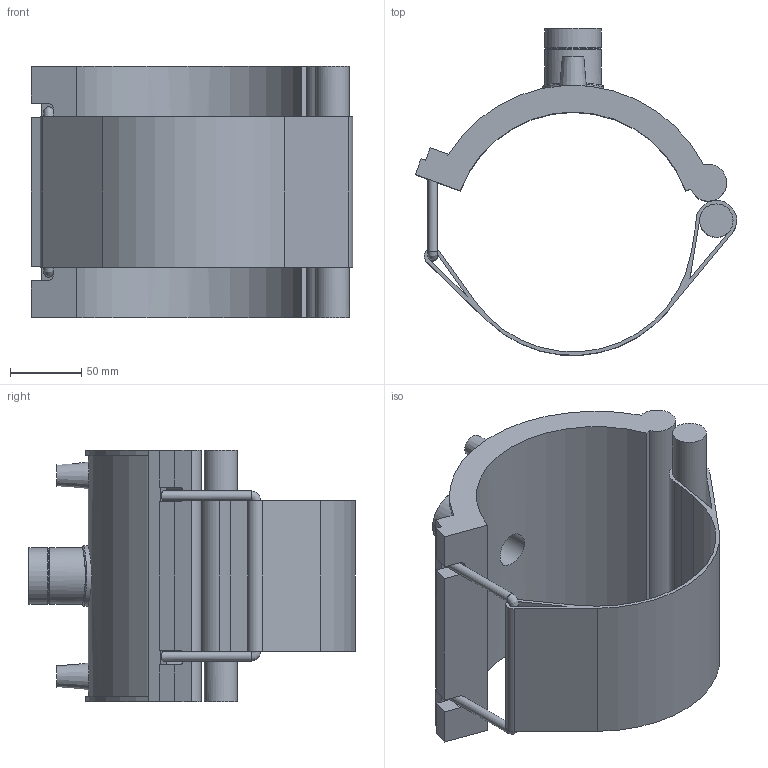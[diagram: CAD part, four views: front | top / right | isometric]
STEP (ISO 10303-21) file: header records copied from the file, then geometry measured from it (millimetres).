
FILE_DESCRIPTION(/* description */ ('PLASSON TRANSITION SADDLE 6''''IPS x 1"NPT'),/* implementation_level */ '2;1');
FILE_NAME(/* name */ 'C:\Dropbox\KIMPROJECTS-Inventor 2019\99-16-3568-Processing Inch\ASTM ElectroFusion 2021\5938B\5938B00306060.ipt.stp',/* time_stamp */ '2021-08-30T09:51:20+03:00',/* author */ ('KIM'),/* organization */ (''),/* preprocessor_version */ 'ST-DEVELOPER v17.2',/* originating_system */ 'Autodesk Inventor 2019',/* authorisation */ '');
FILE_SCHEMA (('AUTOMOTIVE_DESIGN { 1 0 10303 214 3 1 1 }'));
Length unit declared in the file: inch
Products named in the file (1): 5938B00306060
Bounding box: 225.14 x 229.11 x 176.02 mm (x, y, z)
Volume: 1020643.2 mm3; surface area: 221585.6 mm2
Topology: 1 solids, 1 shells, 78 faces, 196 edges, 128 vertices
Faces by surface type: plane 42, cylinder 28, cone 5, torus 2, bspline 1
Full cylindrical faces by diameter (mm): 4 x2, 6.72 x2, 10 x2, 23.391 x1, 24.233 x1, 30.291 x1, 38.378 x1, 39.378 x2, 42.407 x1
Entity records: 2753 total; most frequent: CARTESIAN_POINT 762, DIRECTION 414, ORIENTED_EDGE 394, EDGE_CURVE 197, AXIS2_PLACEMENT_3D 150, VERTEX_POINT 128, LINE 114, VECTOR 114
